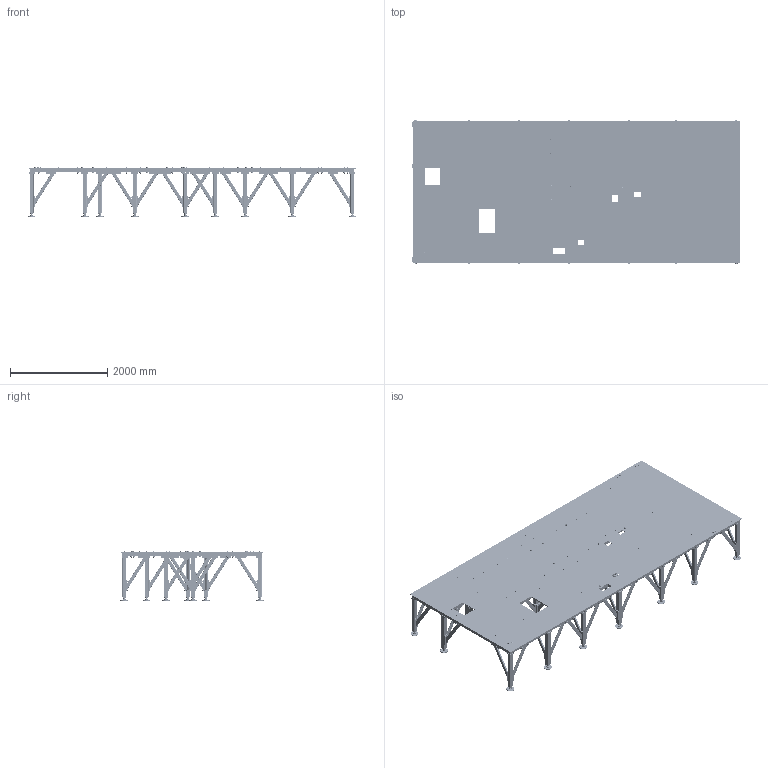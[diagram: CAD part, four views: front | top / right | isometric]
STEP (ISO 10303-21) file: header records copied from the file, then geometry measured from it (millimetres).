
FILE_DESCRIPTION (( 'STEP AP214' ), '1' );
FILE_NAME ('FAU-ITRI-001 chassis STEP.STEP', '2024-07-03T05:48:26', ( '' ), ( '' ), 'SwSTEP 2.0', 'SolidWorks 2018', '' );
FILE_SCHEMA (( 'AUTOMOTIVE_DESIGN' ));
Length unit declared in the file: millimetre
Products named in the file (36): FAU-ITRI-006 CONTREVENEMENT_1<Brut d''usinage>; z_Screw_H_SCREW H M16x50-38; FAU-ITRI-005 PIEDS_3 coupe<Brut d''usinage>; FAU-ITRI-003 tole inox_inox; FAU-ITRI-xxx PLATINE APPUIS; M12 ASSY VIS_M16-25; viista pied_0; z_Washer_WASHER M 12; FAU-ITRI-005 PIEDS_3<Brut d''usinage>; CADRE ITRI_D‚faut<Brut d''usinage>; z_Screw_H_SCREW H M16x120-38; ecrou_din934_m36-10; FAU-ITRI-005 PIEDS_0 coupe<Brut d''usinage>; z_Screw_H_SCREW H M10x30-26; din_en_24017_m36x140; M12 ASSY_160; z_NUT_H_NUT H M 12; FAU-ITRI-005 PIEDS_1<Brut d''usinage>; FAU-ITRI-004 tole acier_acier; viista pied_2; z_Washer_WASHER L16; viista pied_1; viista pied_2 coupe; FAU-ITRI-005 PIEDS_2 coupe 2<Brut d''usinage>; viista pied_3; M10 assy; M12 ASSY VIS_m16-95.5; z_Washer_WASHER M 10; FAU-ITRI-005 PIEDS_2<Brut d''usinage>; Tige filetée - M12_M12x200; FAU-ITRI-001 chassis STEP; FAU-ITRI-005 PIEDS_2 coupe<Brut d''usinage>; FAU-ITRI-007 SUPPORT M36_DWG; z_NUT_H_NUT H M 16; viista pied_3 coupe; viista pied_2 coupe 2
Assembly tree (448 placements, depth 4):
  FAU-ITRI-001 chassis STEP
    CADRE ITRI_D‚faut<Brut d''usinage>
    FAU-ITRI-004 tole acier_acier
    FAU-ITRI-003 tole inox_inox
    viista pied_2 coupe 2  x4
      FAU-ITRI-005 PIEDS_2 coupe 2<Brut d''usinage>
      M10 assy
        z_Screw_H_SCREW H M10x30-26
        z_Washer_WASHER M 10
      FAU-ITRI-006 CONTREVENEMENT_1<Brut d''usinage>
      FAU-ITRI-007 SUPPORT M36_DWG
        din_en_24017_m36x140
        ecrou_din934_m36-10
        FAU-ITRI-xxx PLATINE APPUIS
    viista pied_1  x6
      FAU-ITRI-005 PIEDS_2<Brut d''usinage>
      M10 assy
        z_Screw_H_SCREW H M10x30-26
        z_Washer_WASHER M 10
      FAU-ITRI-006 CONTREVENEMENT_1<Brut d''usinage>
      FAU-ITRI-007 SUPPORT M36_DWG
        din_en_24017_m36x140
        ecrou_din934_m36-10
        FAU-ITRI-xxx PLATINE APPUIS
    viista pied_3  x3
      FAU-ITRI-005 PIEDS_3<Brut d''usinage>
      M10 assy
        z_Screw_H_SCREW H M10x30-26
        z_Washer_WASHER M 10
      FAU-ITRI-006 CONTREVENEMENT_1<Brut d''usinage>
      FAU-ITRI-007 SUPPORT M36_DWG
        din_en_24017_m36x140
        ecrou_din934_m36-10
        FAU-ITRI-xxx PLATINE APPUIS
    viista pied_2  x3
      FAU-ITRI-005 PIEDS_1<Brut d''usinage>
      M10 assy
        z_Screw_H_SCREW H M10x30-26
        z_Washer_WASHER M 10
      FAU-ITRI-006 CONTREVENEMENT_1<Brut d''usinage>
      FAU-ITRI-007 SUPPORT M36_DWG
        din_en_24017_m36x140
        ecrou_din934_m36-10
        FAU-ITRI-xxx PLATINE APPUIS
    viista pied_3 coupe  x5
      FAU-ITRI-005 PIEDS_3 coupe<Brut d''usinage>
      M10 assy
        z_Screw_H_SCREW H M10x30-26
        z_Washer_WASHER M 10
      FAU-ITRI-006 CONTREVENEMENT_1<Brut d''usinage>
      FAU-ITRI-007 SUPPORT M36_DWG
        din_en_24017_m36x140
        ecrou_din934_m36-10
        FAU-ITRI-xxx PLATINE APPUIS
    viista pied_2 coupe  x3
      FAU-ITRI-005 PIEDS_2 coupe<Brut d''usinage>
      M10 assy
        z_Screw_H_SCREW H M10x30-26
        z_Washer_WASHER M 10
      FAU-ITRI-006 CONTREVENEMENT_1<Brut d''usinage>
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Bounding box: 6764.47 x 2949.47 x 1024.5 mm (x, y, z)
Volume: 313068832.3 mm3; surface area: 177368980.4 mm2
Topology: 2100 solids, 2100 shells, 27606 faces, 65489 edges, 42644 vertices
Faces by surface type: plane 12548, cylinder 10534, cone 4468, bspline 56
Entity records: 249320 total; most frequent: CARTESIAN_POINT 39036, DIRECTION 38988, ORIENTED_EDGE 35264, EDGE_CURVE 17632, AXIS2_PLACEMENT_3D 14817, VERTEX_POINT 11617, EDGE_LOOP 9647, LINE 9354
